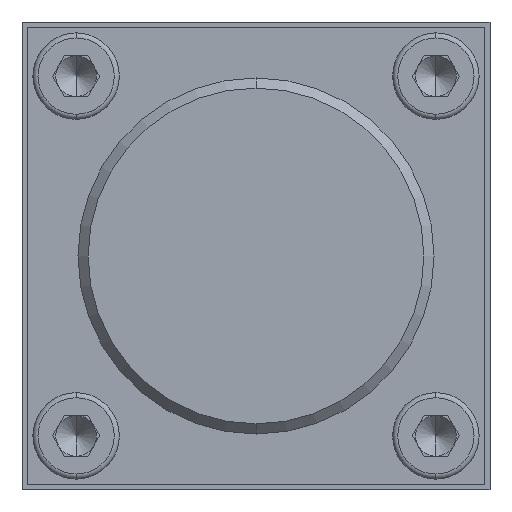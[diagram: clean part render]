
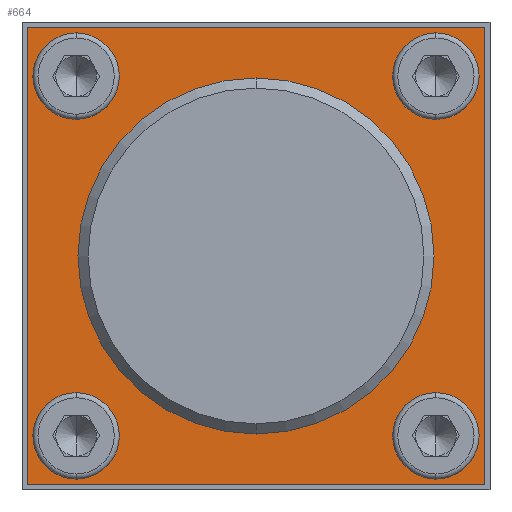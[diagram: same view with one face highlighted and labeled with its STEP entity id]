
A CAD part, left-side view. The second image highlights one B-rep face of the part: STEP entity #664.
In plain terms, the highlighted planar face has unit normal (-1, 0, 0).
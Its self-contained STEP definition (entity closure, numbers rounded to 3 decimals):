
#161 = CARTESIAN_POINT ( 'NONE',  ( -10.3, 0., -17.5 ) ) ;
#354 = CARTESIAN_POINT ( 'NONE',  ( -10.3, -17.68, 21.93 ) ) ;
#572 = AXIS2_PLACEMENT_3D ( 'NONE', #8330, #23046, #13107 ) ;
#664 = ADVANCED_FACE ( 'NONE', ( #3874, #3905, #4608, #3848, #3814, #3573 ), #20842, .T. ) ;
#691 = VECTOR ( 'NONE', #14428, 1000. ) ;
#748 = CARTESIAN_POINT ( 'NONE',  ( -10.3, 17.68, 17.68 ) ) ;
#970 = CARTESIAN_POINT ( 'NONE',  ( -10.3, 0., 0. ) ) ;
#1870 = VECTOR ( 'NONE', #5582, 1000. ) ;
#2232 = VERTEX_POINT ( 'NONE', #13220 ) ;
#2677 = LINE ( 'NONE', #22787, #1870 ) ;
#3092 = DIRECTION ( 'NONE',  ( -1., 0., 0. ) ) ;
#3312 = DIRECTION ( 'NONE',  ( 0., 0., 1. ) ) ;
#3350 = CARTESIAN_POINT ( 'NONE',  ( -10.3, 17.68, 13.43 ) ) ;
#3539 = DIRECTION ( 'NONE',  ( 0., 0., 1. ) ) ;
#3573 = FACE_OUTER_BOUND ( 'NONE', #21382, .T. ) ;
#3814 = FACE_BOUND ( 'NONE', #20993, .T. ) ;
#3848 = FACE_BOUND ( 'NONE', #28915, .T. ) ;
#3874 = FACE_BOUND ( 'NONE', #26678, .T. ) ;
#3905 = FACE_BOUND ( 'NONE', #28353, .T. ) ;
#4369 = AXIS2_PLACEMENT_3D ( 'NONE', #10957, #28065, #13387 ) ;
#4391 = EDGE_CURVE ( 'NONE', #24804, #23985, #30941, .T. ) ;
#4608 = FACE_BOUND ( 'NONE', #20785, .T. ) ;
#4698 = EDGE_CURVE ( 'NONE', #23035, #27134, #21229, .T. ) ;
#5582 = DIRECTION ( 'NONE',  ( 0., 0., 1. ) ) ;
#6072 = AXIS2_PLACEMENT_3D ( 'NONE', #970, #18378, #3539 ) ;
#6524 = CIRCLE ( 'NONE', #25918, 17.5 ) ;
#7631 = DIRECTION ( 'NONE',  ( -1., 0., 0. ) ) ;
#7671 = CARTESIAN_POINT ( 'NONE',  ( -10.3, -22.5, -22.5 ) ) ;
#7896 = CARTESIAN_POINT ( 'NONE',  ( -10.3, 17.68, -21.93 ) ) ;
#8151 = DIRECTION ( 'NONE',  ( 0., 0., 1. ) ) ;
#8176 = LINE ( 'NONE', #24225, #691 ) ;
#8330 = CARTESIAN_POINT ( 'NONE',  ( -10.3, -17.68, 17.68 ) ) ;
#8467 = DIRECTION ( 'NONE',  ( -1., 0., 0. ) ) ;
#8572 = CARTESIAN_POINT ( 'NONE',  ( -10.3, 35., 0. ) ) ;
#9556 = EDGE_CURVE ( 'NONE', #25206, #9990, #22606, .T. ) ;
#9701 = CIRCLE ( 'NONE', #4369, 4.25 ) ;
#9910 = ORIENTED_EDGE ( 'NONE', *, *, #4391, .F. ) ;
#9990 = VERTEX_POINT ( 'NONE', #7896 ) ;
#10000 = ORIENTED_EDGE ( 'NONE', *, *, #20389, .F. ) ;
#10046 = ORIENTED_EDGE ( 'NONE', *, *, #4698, .F. ) ;
#10488 = ORIENTED_EDGE ( 'NONE', *, *, #20434, .F. ) ;
#10624 = AXIS2_PLACEMENT_3D ( 'NONE', #8572, #8467, #8151 ) ;
#10675 = ORIENTED_EDGE ( 'NONE', *, *, #22080, .F. ) ;
#10732 = ORIENTED_EDGE ( 'NONE', *, *, #20436, .F. ) ;
#10745 = CARTESIAN_POINT ( 'NONE',  ( -10.3, -17.68, -17.68 ) ) ;
#10791 = ORIENTED_EDGE ( 'NONE', *, *, #9556, .F. ) ;
#10957 = CARTESIAN_POINT ( 'NONE',  ( -10.3, 17.68, -17.68 ) ) ;
#11077 = ORIENTED_EDGE ( 'NONE', *, *, #20471, .F. ) ;
#11197 = ORIENTED_EDGE ( 'NONE', *, *, #28985, .F. ) ;
#11274 = CARTESIAN_POINT ( 'NONE',  ( -10.3, 17.68, 21.93 ) ) ;
#11293 = ORIENTED_EDGE ( 'NONE', *, *, #20475, .F. ) ;
#11356 = ORIENTED_EDGE ( 'NONE', *, *, #20204, .T. ) ;
#11569 = DIRECTION ( 'NONE',  ( 0., -1., 0. ) ) ;
#11627 = AXIS2_PLACEMENT_3D ( 'NONE', #17955, #3092, #20387 ) ;
#11662 = ORIENTED_EDGE ( 'NONE', *, *, #20385, .T. ) ;
#11679 = DIRECTION ( 'NONE',  ( 0., 0., -1. ) ) ;
#11788 = ORIENTED_EDGE ( 'NONE', *, *, #20336, .T. ) ;
#11869 = ORIENTED_EDGE ( 'NONE', *, *, #20252, .T. ) ;
#11895 = AXIS2_PLACEMENT_3D ( 'NONE', #13922, #31035, #16419 ) ;
#13107 = DIRECTION ( 'NONE',  ( 0., 0., 1. ) ) ;
#13169 = DIRECTION ( 'NONE',  ( 0., 0., 1. ) ) ;
#13220 = CARTESIAN_POINT ( 'NONE',  ( -10.3, 0., 17.5 ) ) ;
#13387 = DIRECTION ( 'NONE',  ( 0., 0., 1. ) ) ;
#13922 = CARTESIAN_POINT ( 'NONE',  ( -10.3, 17.68, 17.68 ) ) ;
#14264 = CARTESIAN_POINT ( 'NONE',  ( -10.3, 22.5, -22.5 ) ) ;
#14428 = DIRECTION ( 'NONE',  ( 0., 1., 0. ) ) ;
#15129 = LINE ( 'NONE', #26233, #20893 ) ;
#16238 = CIRCLE ( 'NONE', #6072, 17.5 ) ;
#16419 = DIRECTION ( 'NONE',  ( 0., 0., 1. ) ) ;
#16498 = VERTEX_POINT ( 'NONE', #7671 ) ;
#17799 = DIRECTION ( 'NONE',  ( 0., 0., 1. ) ) ;
#17955 = CARTESIAN_POINT ( 'NONE',  ( -10.3, -17.68, 17.68 ) ) ;
#17985 = DIRECTION ( 'NONE',  ( -1., 0., 0. ) ) ;
#18008 = CARTESIAN_POINT ( 'NONE',  ( -10.3, -17.68, -17.68 ) ) ;
#18170 = DIRECTION ( 'NONE',  ( -1., 0., 0. ) ) ;
#18378 = DIRECTION ( 'NONE',  ( -1., 0., 0. ) ) ;
#18562 = CIRCLE ( 'NONE', #26395, 4.25 ) ;
#18592 = VECTOR ( 'NONE', #11679, 1000. ) ;
#20107 = CARTESIAN_POINT ( 'NONE',  ( -10.3, 17.68, -13.43 ) ) ;
#20204 = EDGE_CURVE ( 'NONE', #29338, #16498, #15129, .T. ) ;
#20252 = EDGE_CURVE ( 'NONE', #29487, #29338, #25120, .T. ) ;
#20336 = EDGE_CURVE ( 'NONE', #21012, #29487, #8176, .T. ) ;
#20385 = EDGE_CURVE ( 'NONE', #16498, #21012, #2677, .T. ) ;
#20387 = DIRECTION ( 'NONE',  ( 0., 0., 1. ) ) ;
#20389 = EDGE_CURVE ( 'NONE', #23985, #24804, #21632, .T. ) ;
#20434 = EDGE_CURVE ( 'NONE', #27134, #23035, #25085, .T. ) ;
#20436 = EDGE_CURVE ( 'NONE', #21488, #29685, #18562, .T. ) ;
#20471 = EDGE_CURVE ( 'NONE', #9990, #25206, #9701, .T. ) ;
#20475 = EDGE_CURVE ( 'NONE', #20827, #2232, #16238, .T. ) ;
#20785 = EDGE_LOOP ( 'NONE', ( #10675, #10732 ) ) ;
#20827 = VERTEX_POINT ( 'NONE', #161 ) ;
#20842 = PLANE ( 'NONE',  #10624 ) ;
#20893 = VECTOR ( 'NONE', #11569, 1000. ) ;
#20993 = EDGE_LOOP ( 'NONE', ( #11197, #11293 ) ) ;
#21012 = VERTEX_POINT ( 'NONE', #30482 ) ;
#21111 = DIRECTION ( 'NONE',  ( 0., 0., 1. ) ) ;
#21188 = DIRECTION ( 'NONE',  ( -1., 0., 0. ) ) ;
#21203 = CARTESIAN_POINT ( 'NONE',  ( -10.3, -17.68, -13.43 ) ) ;
#21229 = CIRCLE ( 'NONE', #29781, 4.25 ) ;
#21382 = EDGE_LOOP ( 'NONE', ( #11356, #11662, #11788, #11869 ) ) ;
#21488 = VERTEX_POINT ( 'NONE', #3350 ) ;
#21632 = CIRCLE ( 'NONE', #11627, 4.25 ) ;
#22080 = EDGE_CURVE ( 'NONE', #29685, #21488, #24724, .T. ) ;
#22363 = CARTESIAN_POINT ( 'NONE',  ( -10.3, 0., 0. ) ) ;
#22606 = CIRCLE ( 'NONE', #24084, 4.25 ) ;
#22787 = CARTESIAN_POINT ( 'NONE',  ( -10.3, -22.5, 22.5 ) ) ;
#23035 = VERTEX_POINT ( 'NONE', #21203 ) ;
#23046 = DIRECTION ( 'NONE',  ( -1., 0., 0. ) ) ;
#23186 = AXIS2_PLACEMENT_3D ( 'NONE', #10745, #27853, #13169 ) ;
#23985 = VERTEX_POINT ( 'NONE', #25636 ) ;
#24084 = AXIS2_PLACEMENT_3D ( 'NONE', #31223, #21188, #21111 ) ;
#24225 = CARTESIAN_POINT ( 'NONE',  ( -10.3, -22.5, 22.5 ) ) ;
#24724 = CIRCLE ( 'NONE', #11895, 4.25 ) ;
#24804 = VERTEX_POINT ( 'NONE', #354 ) ;
#24834 = DIRECTION ( 'NONE',  ( 0., 0., 1. ) ) ;
#25085 = CIRCLE ( 'NONE', #23186, 4.25 ) ;
#25120 = LINE ( 'NONE', #28783, #18592 ) ;
#25206 = VERTEX_POINT ( 'NONE', #20107 ) ;
#25541 = CARTESIAN_POINT ( 'NONE',  ( -10.3, -17.68, -21.93 ) ) ;
#25636 = CARTESIAN_POINT ( 'NONE',  ( -10.3, -17.68, 13.43 ) ) ;
#25918 = AXIS2_PLACEMENT_3D ( 'NONE', #22363, #7631, #24834 ) ;
#26233 = CARTESIAN_POINT ( 'NONE',  ( -10.3, -22.5, -22.5 ) ) ;
#26395 = AXIS2_PLACEMENT_3D ( 'NONE', #748, #18170, #3312 ) ;
#26678 = EDGE_LOOP ( 'NONE', ( #9910, #10000 ) ) ;
#27134 = VERTEX_POINT ( 'NONE', #25541 ) ;
#27853 = DIRECTION ( 'NONE',  ( -1., 0., 0. ) ) ;
#28065 = DIRECTION ( 'NONE',  ( -1., 0., 0. ) ) ;
#28353 = EDGE_LOOP ( 'NONE', ( #10046, #10488 ) ) ;
#28783 = CARTESIAN_POINT ( 'NONE',  ( -10.3, 22.5, 22.5 ) ) ;
#28915 = EDGE_LOOP ( 'NONE', ( #10791, #11077 ) ) ;
#28985 = EDGE_CURVE ( 'NONE', #2232, #20827, #6524, .T. ) ;
#29333 = CARTESIAN_POINT ( 'NONE',  ( -10.3, 22.5, 22.5 ) ) ;
#29338 = VERTEX_POINT ( 'NONE', #14264 ) ;
#29487 = VERTEX_POINT ( 'NONE', #29333 ) ;
#29685 = VERTEX_POINT ( 'NONE', #11274 ) ;
#29781 = AXIS2_PLACEMENT_3D ( 'NONE', #18008, #17985, #17799 ) ;
#30482 = CARTESIAN_POINT ( 'NONE',  ( -10.3, -22.5, 22.5 ) ) ;
#30941 = CIRCLE ( 'NONE', #572, 4.25 ) ;
#31035 = DIRECTION ( 'NONE',  ( -1., 0., 0. ) ) ;
#31223 = CARTESIAN_POINT ( 'NONE',  ( -10.3, 17.68, -17.68 ) ) ;
